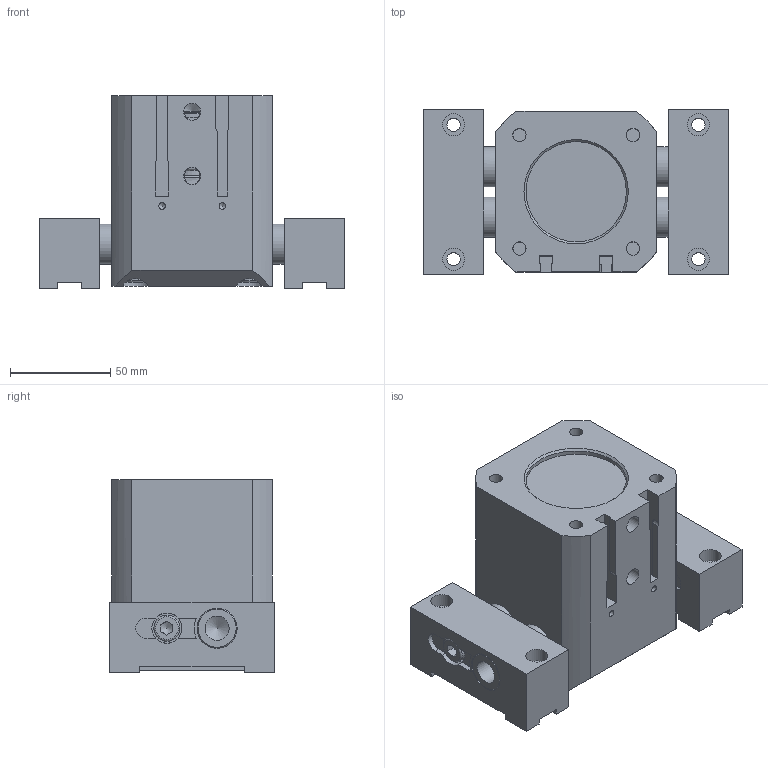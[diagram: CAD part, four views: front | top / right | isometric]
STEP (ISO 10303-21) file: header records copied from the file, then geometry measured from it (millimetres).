
FILE_DESCRIPTION((''),'2;1');
FILE_NAME('T:\CAD\Standard\Daten\3D-Datenbank\GP\4 - 3D-CAD-Daten GP 050-125\GP100\step-Daten\G-GP100-l1-GÖ+UB open.stp','2013-11-07T11:35:48',('Dirk'),(''),'Autodesk Inventor 2011','Autodesk Inventor 2011','');
FILE_SCHEMA(('AUTOMOTIVE_DESIGN { 1 0 10303 214 1 1 1 1 }'));
Length unit declared in the file: millimetre
Products named in the file (1): Bauteil44
Bounding box: 152 x 82 x 96 mm (x, y, z)
Volume: 628678.7 mm3; surface area: 141626.9 mm2
Topology: 1 solids, 16 shells, 430 faces, 1089 edges, 703 vertices
Faces by surface type: plane 239, cylinder 117, cone 40, torus 24, bspline 10
Full cylindrical faces by diameter (mm): 3.242 x2, 6.647 x10, 8 x6, 8.2 x4, 8.376 x1, 8.566 x2, 9 x2, 10 x1, 11 x6, 12 x2, 13 x6, 15 x8, 20 x7, 22 x5, 23 x2, 24 x1, 28.4 x1, 33 x2, 45 x1, 48 x2, 50 x1, 52 x2, 54.2 x1, 61.1 x2, 62 x1, 64 x5
Entity records: 13916 total; most frequent: CARTESIAN_POINT 4029, DIRECTION 1938, ORIENTED_EDGE 1746, EDGE_CURVE 873, AXIS2_PLACEMENT_3D 753, EDGE_LOOP 654, VERTEX_POINT 629, VECTOR 432
